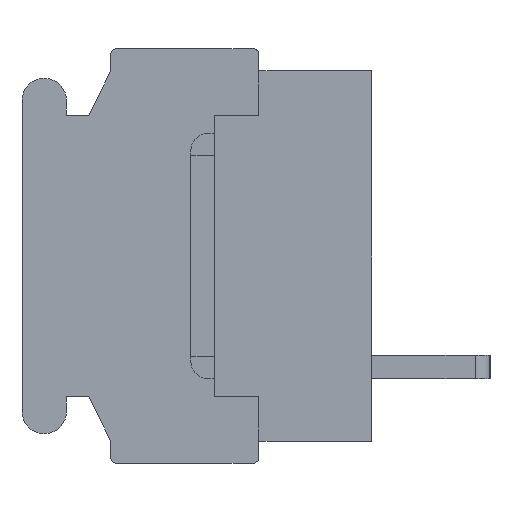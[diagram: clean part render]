
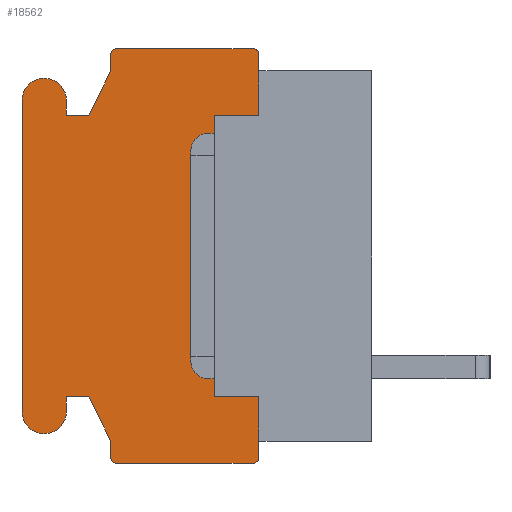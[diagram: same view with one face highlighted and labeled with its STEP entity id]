
A CAD part, left-side view. The second image highlights one B-rep face of the part: STEP entity #18562.
In plain terms, the highlighted planar face has unit normal (-1, 0, 0).
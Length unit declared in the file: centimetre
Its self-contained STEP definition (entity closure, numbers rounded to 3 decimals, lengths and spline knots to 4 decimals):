
#1127=PLANE('',#30430);
#1878=VECTOR('',#19892,1.);
#2843=VECTOR('',#21955,1.);
#2844=VECTOR('',#21956,1.);
#2845=VECTOR('',#21959,1.);
#2846=VECTOR('',#21962,1.);
#2847=VECTOR('',#21963,1.);
#2848=VECTOR('',#21964,1.);
#2849=VECTOR('',#21965,1.);
#2850=VECTOR('',#21968,1.);
#2851=VECTOR('',#21971,1.);
#2852=VECTOR('',#21972,1.);
#2853=VECTOR('',#21973,1.);
#2854=VECTOR('',#21974,1.);
#2855=VECTOR('',#21977,1.);
#2856=VECTOR('',#21980,1.);
#2857=VECTOR('',#21981,1.);
#2858=VECTOR('',#21982,1.);
#2859=VECTOR('',#21983,1.);
#3890=LINE('',#24766,#1878);
#4855=LINE('',#27792,#2843);
#4856=LINE('',#27794,#2844);
#4857=LINE('',#27798,#2845);
#4858=LINE('',#27802,#2846);
#4859=LINE('',#27804,#2847);
#4860=LINE('',#27806,#2848);
#4861=LINE('',#27808,#2849);
#4862=LINE('',#27812,#2850);
#4863=LINE('',#27816,#2851);
#4864=LINE('',#27818,#2852);
#4865=LINE('',#27820,#2853);
#4866=LINE('',#27822,#2854);
#4867=LINE('',#27826,#2855);
#4868=LINE('',#27830,#2856);
#4869=LINE('',#27831,#2857);
#4870=LINE('',#27833,#2858);
#4871=LINE('',#27834,#2859);
#5843=VERTEX_POINT('',#24767);
#5844=VERTEX_POINT('',#24768);
#5934=VERTEX_POINT('',#25023);
#5963=VERTEX_POINT('',#25086);
#6728=VERTEX_POINT('',#27793);
#6729=VERTEX_POINT('',#27795);
#6730=VERTEX_POINT('',#27797);
#6731=VERTEX_POINT('',#27799);
#6732=VERTEX_POINT('',#27801);
#6733=VERTEX_POINT('',#27803);
#6734=VERTEX_POINT('',#27805);
#6735=VERTEX_POINT('',#27807);
#6736=VERTEX_POINT('',#27809);
#6737=VERTEX_POINT('',#27811);
#6738=VERTEX_POINT('',#27813);
#6739=VERTEX_POINT('',#27815);
#6740=VERTEX_POINT('',#27817);
#6741=VERTEX_POINT('',#27819);
#6742=VERTEX_POINT('',#27821);
#6743=VERTEX_POINT('',#27823);
#6744=VERTEX_POINT('',#27825);
#6745=VERTEX_POINT('',#27827);
#6746=VERTEX_POINT('',#27829);
#6747=VERTEX_POINT('',#27832);
#7406=CIRCLE('',#30431,0.02);
#7407=CIRCLE('',#30432,0.02);
#7408=CIRCLE('',#30433,0.075);
#7409=CIRCLE('',#30434,0.075);
#7410=CIRCLE('',#30435,0.02);
#7411=CIRCLE('',#30436,0.02);
#8220=EDGE_CURVE('',#5843,#5844,#3890,.T.);
#9570=EDGE_CURVE('',#6728,#5934,#4855,.T.);
#9571=EDGE_CURVE('',#6729,#5934,#4856,.T.);
#9572=EDGE_CURVE('',#6730,#6729,#7406,.T.);
#9573=EDGE_CURVE('',#6731,#6730,#4857,.T.);
#9574=EDGE_CURVE('',#6732,#6731,#7407,.T.);
#9575=EDGE_CURVE('',#6733,#6732,#4858,.T.);
#9576=EDGE_CURVE('',#6734,#6733,#4859,.T.);
#9577=EDGE_CURVE('',#6735,#6734,#4860,.T.);
#9578=EDGE_CURVE('',#6736,#6735,#4861,.T.);
#9579=EDGE_CURVE('',#6737,#6736,#7408,.T.);
#9580=EDGE_CURVE('',#6738,#6737,#4862,.T.);
#9581=EDGE_CURVE('',#6739,#6738,#7409,.T.);
#9582=EDGE_CURVE('',#6740,#6739,#4863,.T.);
#9583=EDGE_CURVE('',#6741,#6740,#4864,.T.);
#9584=EDGE_CURVE('',#6742,#6741,#4865,.T.);
#9585=EDGE_CURVE('',#6743,#6742,#4866,.T.);
#9586=EDGE_CURVE('',#6744,#6743,#7410,.T.);
#9587=EDGE_CURVE('',#6745,#6744,#4867,.T.);
#9588=EDGE_CURVE('',#6746,#6745,#7411,.T.);
#9589=EDGE_CURVE('',#5963,#6746,#4868,.T.);
#9590=EDGE_CURVE('',#5963,#6747,#4869,.T.);
#9591=EDGE_CURVE('',#6747,#5843,#4870,.T.);
#9592=EDGE_CURVE('',#5844,#6728,#4871,.T.);
#14404=ORIENTED_EDGE('',*,*,#9570,.T.);
#14405=ORIENTED_EDGE('',*,*,#9571,.F.);
#14406=ORIENTED_EDGE('',*,*,#9572,.F.);
#14407=ORIENTED_EDGE('',*,*,#9573,.F.);
#14408=ORIENTED_EDGE('',*,*,#9574,.F.);
#14409=ORIENTED_EDGE('',*,*,#9575,.F.);
#14410=ORIENTED_EDGE('',*,*,#9576,.F.);
#14411=ORIENTED_EDGE('',*,*,#9577,.F.);
#14412=ORIENTED_EDGE('',*,*,#9578,.F.);
#14413=ORIENTED_EDGE('',*,*,#9579,.F.);
#14414=ORIENTED_EDGE('',*,*,#9580,.F.);
#14415=ORIENTED_EDGE('',*,*,#9581,.F.);
#14416=ORIENTED_EDGE('',*,*,#9582,.F.);
#14417=ORIENTED_EDGE('',*,*,#9583,.F.);
#14418=ORIENTED_EDGE('',*,*,#9584,.F.);
#14419=ORIENTED_EDGE('',*,*,#9585,.F.);
#14420=ORIENTED_EDGE('',*,*,#9586,.F.);
#14421=ORIENTED_EDGE('',*,*,#9587,.F.);
#14422=ORIENTED_EDGE('',*,*,#9588,.F.);
#14423=ORIENTED_EDGE('',*,*,#9589,.F.);
#14424=ORIENTED_EDGE('',*,*,#9590,.T.);
#14425=ORIENTED_EDGE('',*,*,#9591,.T.);
#14426=ORIENTED_EDGE('',*,*,#8220,.T.);
#14427=ORIENTED_EDGE('',*,*,#9592,.T.);
#16430=EDGE_LOOP('',(#14404,#14405,#14406,#14407,#14408,#14409,#14410,#14411,
#14412,#14413,#14414,#14415,#14416,#14417,#14418,#14419,#14420,#14421,#14422,
#14423,#14424,#14425,#14426,#14427));
#17530=FACE_BOUND('',#16430,.T.);
#18562=ADVANCED_FACE('',(#17530),#1127,.F.);
#19892=DIRECTION('',(0.,0.,1.));
#21954=DIRECTION('',(1.,0.,0.));
#21955=DIRECTION('',(0.,0.,1.));
#21956=DIRECTION('',(0.,0.,-1.));
#21957=DIRECTION('',(1.,0.,0.));
#21958=DIRECTION('',(0.,0.,-0.02));
#21959=DIRECTION('',(0.,-1.,0.));
#21960=DIRECTION('',(1.,0.,0.));
#21961=DIRECTION('',(0.,0.,-0.02));
#21962=DIRECTION('',(0.,0.,1.));
#21963=DIRECTION('',(0.,-0.447,0.894));
#21964=DIRECTION('',(0.,-1.,0.));
#21965=DIRECTION('',(0.,0.,-1.));
#21966=DIRECTION('',(1.,0.,0.));
#21967=DIRECTION('',(0.,0.,-0.075));
#21968=DIRECTION('',(0.,0.,1.));
#21969=DIRECTION('',(1.,0.,0.));
#21970=DIRECTION('',(0.,0.,-0.075));
#21971=DIRECTION('',(0.,0.,-1.));
#21972=DIRECTION('',(0.,1.,0.));
#21973=DIRECTION('',(0.,0.447,0.894));
#21974=DIRECTION('',(0.,0.,1.));
#21975=DIRECTION('',(1.,0.,0.));
#21976=DIRECTION('',(0.,0.,-0.02));
#21977=DIRECTION('',(0.,1.,0.));
#21978=DIRECTION('',(1.,0.,0.));
#21979=DIRECTION('',(0.,0.,-0.02));
#21980=DIRECTION('',(0.,0.,-1.));
#21981=DIRECTION('',(0.,0.,1.));
#21982=DIRECTION('',(0.,1.,0.));
#21983=DIRECTION('',(0.,-1.,0.));
#24766=CARTESIAN_POINT('',(-0.762,0.53,0.));
#24767=CARTESIAN_POINT('',(-0.762,0.53,-0.475));
#24768=CARTESIAN_POINT('',(-0.762,0.53,0.475));
#25023=CARTESIAN_POINT('',(-0.762,0.38,0.625));
#25086=CARTESIAN_POINT('',(-0.762,0.38,-0.625));
#27791=CARTESIAN_POINT('',(-0.762,0.6059,0.));
#27792=CARTESIAN_POINT('',(-0.762,0.38,0.275));
#27793=CARTESIAN_POINT('',(-0.762,0.38,0.475));
#27794=CARTESIAN_POINT('',(-0.762,0.38,0.68));
#27795=CARTESIAN_POINT('',(-0.762,0.38,0.68));
#27796=CARTESIAN_POINT('',(-0.762,0.4,0.68));
#27797=CARTESIAN_POINT('',(-0.762,0.4,0.7));
#27798=CARTESIAN_POINT('',(-0.762,0.86,0.7));
#27799=CARTESIAN_POINT('',(-0.762,0.86,0.7));
#27800=CARTESIAN_POINT('',(-0.762,0.86,0.68));
#27801=CARTESIAN_POINT('',(-0.762,0.88,0.68));
#27802=CARTESIAN_POINT('',(-0.762,0.88,0.625));
#27803=CARTESIAN_POINT('',(-0.762,0.88,0.625));
#27804=CARTESIAN_POINT('',(-0.762,0.955,0.475));
#27805=CARTESIAN_POINT('',(-0.762,0.955,0.475));
#27806=CARTESIAN_POINT('',(-0.762,1.03,0.475));
#27807=CARTESIAN_POINT('',(-0.762,1.03,0.475));
#27808=CARTESIAN_POINT('',(-0.762,1.03,0.525));
#27809=CARTESIAN_POINT('',(-0.762,1.03,0.525));
#27810=CARTESIAN_POINT('',(-0.762,1.105,0.525));
#27811=CARTESIAN_POINT('',(-0.762,1.18,0.525));
#27812=CARTESIAN_POINT('',(-0.762,1.18,-0.525));
#27813=CARTESIAN_POINT('',(-0.762,1.18,-0.525));
#27814=CARTESIAN_POINT('',(-0.762,1.105,-0.525));
#27815=CARTESIAN_POINT('',(-0.762,1.03,-0.525));
#27816=CARTESIAN_POINT('',(-0.762,1.03,-0.475));
#27817=CARTESIAN_POINT('',(-0.762,1.03,-0.475));
#27818=CARTESIAN_POINT('',(-0.762,0.955,-0.475));
#27819=CARTESIAN_POINT('',(-0.762,0.955,-0.475));
#27820=CARTESIAN_POINT('',(-0.762,0.88,-0.625));
#27821=CARTESIAN_POINT('',(-0.762,0.88,-0.625));
#27822=CARTESIAN_POINT('',(-0.762,0.88,-0.68));
#27823=CARTESIAN_POINT('',(-0.762,0.88,-0.68));
#27824=CARTESIAN_POINT('',(-0.762,0.86,-0.68));
#27825=CARTESIAN_POINT('',(-0.762,0.86,-0.7));
#27826=CARTESIAN_POINT('',(-0.762,0.4,-0.7));
#27827=CARTESIAN_POINT('',(-0.762,0.4,-0.7));
#27828=CARTESIAN_POINT('',(-0.762,0.4,-0.68));
#27829=CARTESIAN_POINT('',(-0.762,0.38,-0.68));
#27830=CARTESIAN_POINT('',(-0.762,0.38,-0.625));
#27831=CARTESIAN_POINT('',(-0.762,0.38,-0.275));
#27832=CARTESIAN_POINT('',(-0.762,0.38,-0.475));
#27833=CARTESIAN_POINT('',(-0.762,0.5304,-0.475));
#27834=CARTESIAN_POINT('',(-0.762,0.5304,0.475));
#30430=AXIS2_PLACEMENT_3D('',#27791,#21954,$);
#30431=AXIS2_PLACEMENT_3D('',#27796,#21957,#21958);
#30432=AXIS2_PLACEMENT_3D('',#27800,#21960,#21961);
#30433=AXIS2_PLACEMENT_3D('',#27810,#21966,#21967);
#30434=AXIS2_PLACEMENT_3D('',#27814,#21969,#21970);
#30435=AXIS2_PLACEMENT_3D('',#27824,#21975,#21976);
#30436=AXIS2_PLACEMENT_3D('',#27828,#21978,#21979);
